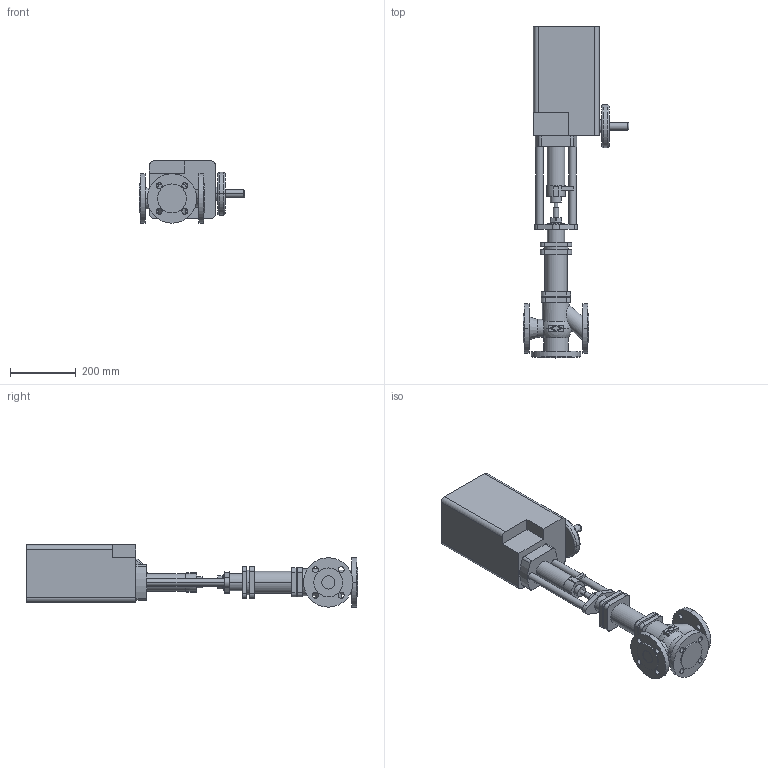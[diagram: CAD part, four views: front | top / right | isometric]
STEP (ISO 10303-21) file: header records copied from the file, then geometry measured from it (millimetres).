
FILE_DESCRIPTION(('OneSpaceDesigner STEP Export'),'2;1');
FILE_NAME('c000002472.stp','2006-09-21T12:01:11',(''),(''),'OneSpace Designer STEP processor for AP214 (Solid Model)','OneSpace Designer 13.20A 18-Aug-2005 (C) CoCreate Software GmbH','');
FILE_SCHEMA(('AUTOMOTIVE_DESIGN { 1 0 10303 214 1 1 1 1 }'));
Length unit declared in the file: millimetre
Products named in the file (2): 1; 2
Bounding box: 321.6 x 1008 x 189 mm (x, y, z)
Volume: 15712718.9 mm3; surface area: 715792.2 mm2
Topology: 2 solids, 2 shells, 238 faces, 587 edges, 388 vertices
Faces by surface type: cylinder 118, plane 106, sphere 6, torus 6, cone 2
Entity records: 6938 total; most frequent: CARTESIAN_POINT 1539, ORIENTED_EDGE 1174, DIRECTION 1029, EDGE_CURVE 587, VERTEX_POINT 388, AXIS2_PLACEMENT_3D 366, VECTOR 297, LINE 297
